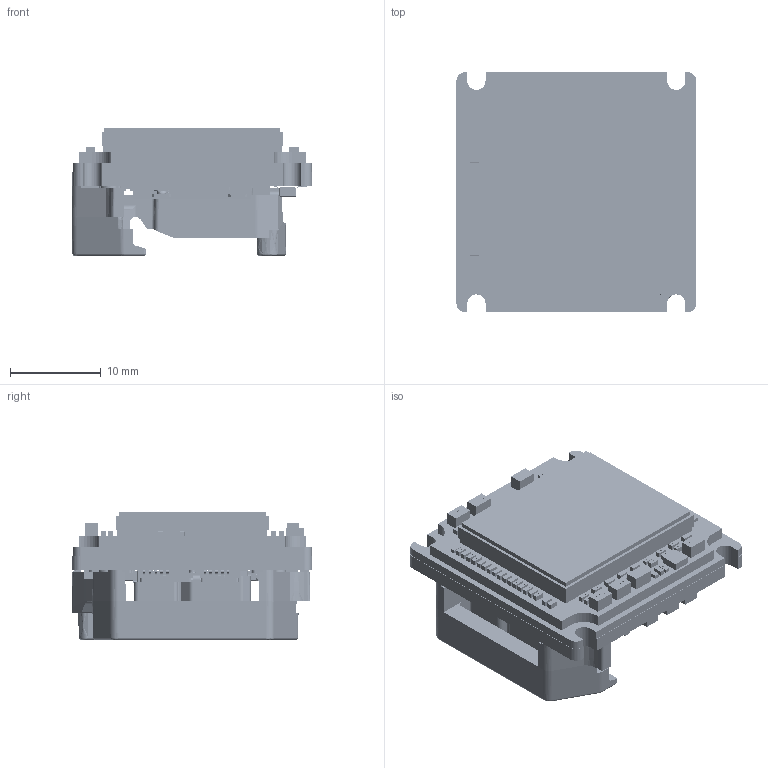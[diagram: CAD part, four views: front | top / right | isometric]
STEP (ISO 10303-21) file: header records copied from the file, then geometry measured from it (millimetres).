
FILE_DESCRIPTION (( 'STEP AP214' ), '1' );
FILE_NAME ('Alvium-USB180-Bare-Board-IMX-990+991-VSWIR.STEP', '2021-10-01T06:43:38', ( '' ), ( '' ), 'SwSTEP 2.0', 'SolidWorks 2020', '' );
FILE_SCHEMA (( 'AUTOMOTIVE_DESIGN' ));
Length unit declared in the file: millimetre
Products named in the file (1): Alvium-USB180-Bare-Board-IMX-990+991-VSWIR
Bounding box: 26.48 x 26.45 x 14.14 mm (x, y, z)
Surface area: 6433.5 mm2 (no closed solid volume)
Topology: 0 solids, 153 shells, 11475 faces, 29207 edges, 19099 vertices
Faces by surface type: plane 6022, bspline 4188, cylinder 1193, cone 50, sphere 16, torus 6
Entity records: 711245 total; most frequent: CARTESIAN_POINT 335065, ORIENTED_EDGE 58356, DIRECTION 36875, EDGE_CURVE 29186, VERTEX_POINT 19101, VECTOR 18175, LINE 18175, EDGE_LOOP 12613
